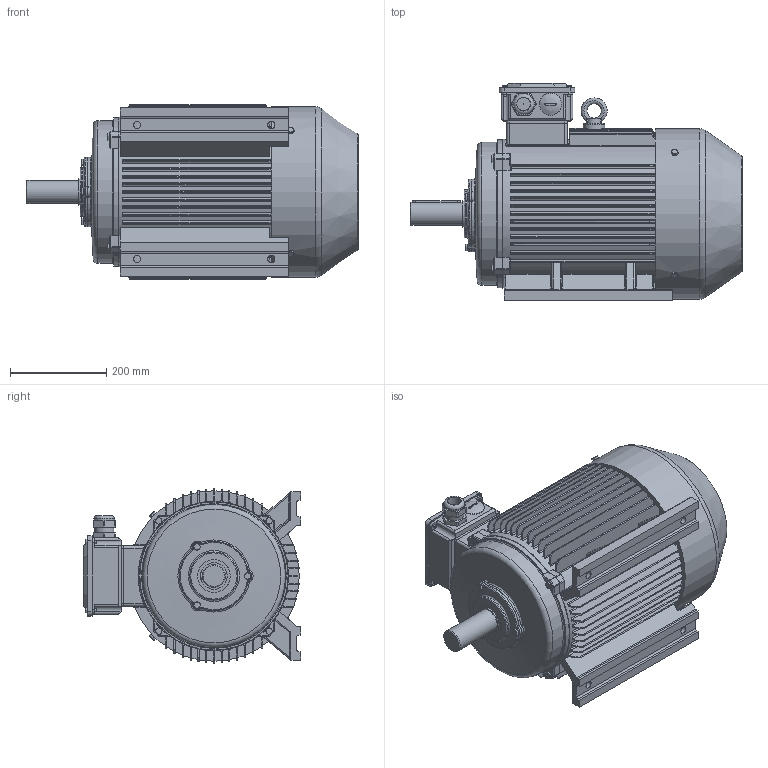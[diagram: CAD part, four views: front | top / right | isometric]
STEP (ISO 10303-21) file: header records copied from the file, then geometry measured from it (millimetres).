
FILE_DESCRIPTION((''),'2;1');
FILE_NAME('U:\Inventor 2012\121 - OMEC MOTORS\1408 - MOTOREN CAD BIBLIOTHEEK\1408 - Gereed\Step files\Step zonder Omec logo\180\OMT1-180L B3 - 2-4 Pole IE3.stp','2015-02-05T15:51:00',('Freek'),(''),'Autodesk Inventor 2012','Autodesk Inventor 2012','');
FILE_SCHEMA(('AUTOMOTIVE_DESIGN { 1 0 10303 214 1 1 1 1 }'));
Length unit declared in the file: millimetre
Products named in the file (1): 1408-175
Bounding box: 690.1 x 451.1 x 363.05 mm (x, y, z)
Volume: 48546649.9 mm3; surface area: 1993296.2 mm2
Topology: 4 solids, 13 shells, 2435 faces, 6024 edges, 3937 vertices
Faces by surface type: plane 1748, cylinder 409, cone 199, bspline 31, torus 26, sphere 22
Full cylindrical faces by diameter (mm): 1 x2, 5.459 x4, 6 x12, 7.323 x11, 8 x16, 8.7 x4, 10 x6, 11.4 x11, 15 x4, 28 x1, 40 x2, 43 x1, 45 x1, 46 x1, 48 x1, 55 x1, 67.6 x1, 67.8 x1, 68 x1, 100 x1, 235 x1, 297 x1, 308 x1, 354.5 x1
Entity records: 76992 total; most frequent: CARTESIAN_POINT 17768, ORIENTED_EDGE 11768, DIRECTION 11171, EDGE_CURVE 5884, VECTOR 4295, LINE 4295, VERTEX_POINT 3901, AXIS2_PLACEMENT_3D 3438
